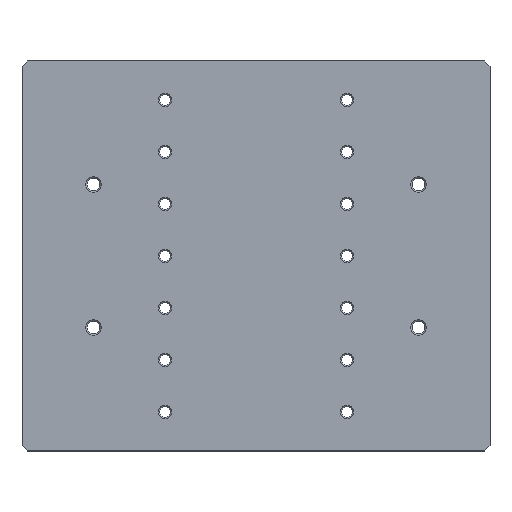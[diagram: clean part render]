
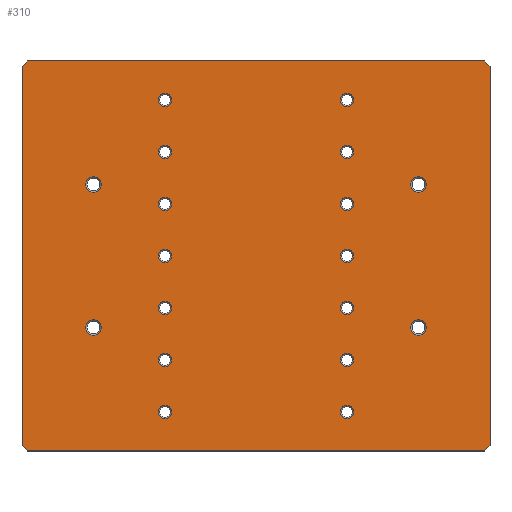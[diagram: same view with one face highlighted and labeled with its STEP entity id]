
A CAD part, top view. The second image highlights one B-rep face of the part: STEP entity #310.
In plain terms, the highlighted planar face has unit normal (0, 0, 1).
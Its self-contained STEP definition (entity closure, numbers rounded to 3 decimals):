
#88=FACE_BOUND('',#392,.T.);
#89=FACE_BOUND('',#393,.T.);
#90=FACE_BOUND('',#394,.T.);
#91=FACE_BOUND('',#395,.T.);
#92=FACE_BOUND('',#396,.T.);
#93=FACE_BOUND('',#397,.T.);
#94=FACE_BOUND('',#398,.T.);
#95=FACE_BOUND('',#399,.T.);
#96=FACE_BOUND('',#400,.T.);
#97=FACE_BOUND('',#401,.T.);
#98=FACE_BOUND('',#402,.T.);
#99=FACE_BOUND('',#403,.T.);
#100=FACE_BOUND('',#404,.T.);
#101=FACE_BOUND('',#405,.T.);
#102=FACE_BOUND('',#406,.T.);
#103=FACE_BOUND('',#407,.T.);
#104=FACE_BOUND('',#408,.T.);
#105=FACE_BOUND('',#409,.T.);
#106=FACE_BOUND('',#410,.T.);
#234=CIRCLE('',#971,2.5);
#235=CIRCLE('',#972,2.5);
#236=CIRCLE('',#973,2.5);
#237=CIRCLE('',#974,2.5);
#238=CIRCLE('',#975,2.5);
#239=CIRCLE('',#976,2.5);
#240=CIRCLE('',#977,2.5);
#241=CIRCLE('',#978,2.5);
#242=CIRCLE('',#979,2.5);
#243=CIRCLE('',#980,2.5);
#244=CIRCLE('',#981,2.5);
#245=CIRCLE('',#982,2.5);
#246=CIRCLE('',#983,2.5);
#247=CIRCLE('',#984,2.5);
#248=CIRCLE('',#985,3.);
#249=CIRCLE('',#986,3.);
#250=CIRCLE('',#987,3.);
#251=CIRCLE('',#988,3.);
#310=ADVANCED_FACE('',(#88,#89,#90,#91,#92,#93,#94,#95,#96,#97,#98,#99,
#100,#101,#102,#103,#104,#105,#106),#374,.T.);
#374=PLANE('',#989);
#392=EDGE_LOOP('',(#558));
#393=EDGE_LOOP('',(#559));
#394=EDGE_LOOP('',(#560));
#395=EDGE_LOOP('',(#561));
#396=EDGE_LOOP('',(#562));
#397=EDGE_LOOP('',(#563));
#398=EDGE_LOOP('',(#564));
#399=EDGE_LOOP('',(#565));
#400=EDGE_LOOP('',(#566));
#401=EDGE_LOOP('',(#567));
#402=EDGE_LOOP('',(#568));
#403=EDGE_LOOP('',(#569));
#404=EDGE_LOOP('',(#570));
#405=EDGE_LOOP('',(#571));
#406=EDGE_LOOP('',(#572));
#407=EDGE_LOOP('',(#573));
#408=EDGE_LOOP('',(#574));
#409=EDGE_LOOP('',(#575));
#410=EDGE_LOOP('',(#576,#577,#578,#579,#580,#581,#582,#583));
#558=ORIENTED_EDGE('',*,*,#838,.F.);
#559=ORIENTED_EDGE('',*,*,#839,.F.);
#560=ORIENTED_EDGE('',*,*,#840,.F.);
#561=ORIENTED_EDGE('',*,*,#841,.F.);
#562=ORIENTED_EDGE('',*,*,#842,.F.);
#563=ORIENTED_EDGE('',*,*,#843,.F.);
#564=ORIENTED_EDGE('',*,*,#844,.F.);
#565=ORIENTED_EDGE('',*,*,#845,.F.);
#566=ORIENTED_EDGE('',*,*,#846,.F.);
#567=ORIENTED_EDGE('',*,*,#847,.F.);
#568=ORIENTED_EDGE('',*,*,#848,.F.);
#569=ORIENTED_EDGE('',*,*,#849,.F.);
#570=ORIENTED_EDGE('',*,*,#850,.F.);
#571=ORIENTED_EDGE('',*,*,#851,.F.);
#572=ORIENTED_EDGE('',*,*,#852,.F.);
#573=ORIENTED_EDGE('',*,*,#853,.F.);
#574=ORIENTED_EDGE('',*,*,#854,.F.);
#575=ORIENTED_EDGE('',*,*,#855,.F.);
#576=ORIENTED_EDGE('',*,*,#832,.T.);
#577=ORIENTED_EDGE('',*,*,#856,.T.);
#578=ORIENTED_EDGE('',*,*,#834,.T.);
#579=ORIENTED_EDGE('',*,*,#857,.T.);
#580=ORIENTED_EDGE('',*,*,#824,.T.);
#581=ORIENTED_EDGE('',*,*,#858,.T.);
#582=ORIENTED_EDGE('',*,*,#828,.T.);
#583=ORIENTED_EDGE('',*,*,#859,.T.);
#736=VERTEX_POINT('',#1406);
#737=VERTEX_POINT('',#1408);
#740=VERTEX_POINT('',#1415);
#741=VERTEX_POINT('',#1417);
#744=VERTEX_POINT('',#1424);
#745=VERTEX_POINT('',#1426);
#746=VERTEX_POINT('',#1430);
#747=VERTEX_POINT('',#1431);
#750=VERTEX_POINT('',#1439);
#751=VERTEX_POINT('',#1441);
#752=VERTEX_POINT('',#1443);
#753=VERTEX_POINT('',#1445);
#754=VERTEX_POINT('',#1447);
#755=VERTEX_POINT('',#1449);
#756=VERTEX_POINT('',#1451);
#757=VERTEX_POINT('',#1453);
#758=VERTEX_POINT('',#1455);
#759=VERTEX_POINT('',#1457);
#760=VERTEX_POINT('',#1459);
#761=VERTEX_POINT('',#1461);
#762=VERTEX_POINT('',#1463);
#763=VERTEX_POINT('',#1465);
#764=VERTEX_POINT('',#1467);
#765=VERTEX_POINT('',#1469);
#766=VERTEX_POINT('',#1471);
#767=VERTEX_POINT('',#1473);
#824=EDGE_CURVE('',#737,#736,#920,.T.);
#828=EDGE_CURVE('',#741,#740,#924,.T.);
#832=EDGE_CURVE('',#745,#744,#928,.T.);
#834=EDGE_CURVE('',#746,#747,#930,.T.);
#838=EDGE_CURVE('',#750,#750,#234,.T.);
#839=EDGE_CURVE('',#751,#751,#235,.T.);
#840=EDGE_CURVE('',#752,#752,#236,.T.);
#841=EDGE_CURVE('',#753,#753,#237,.T.);
#842=EDGE_CURVE('',#754,#754,#238,.T.);
#843=EDGE_CURVE('',#755,#755,#239,.T.);
#844=EDGE_CURVE('',#756,#756,#240,.T.);
#845=EDGE_CURVE('',#757,#757,#241,.T.);
#846=EDGE_CURVE('',#758,#758,#242,.T.);
#847=EDGE_CURVE('',#759,#759,#243,.T.);
#848=EDGE_CURVE('',#760,#760,#244,.T.);
#849=EDGE_CURVE('',#761,#761,#245,.T.);
#850=EDGE_CURVE('',#762,#762,#246,.T.);
#851=EDGE_CURVE('',#763,#763,#247,.T.);
#852=EDGE_CURVE('',#764,#764,#248,.T.);
#853=EDGE_CURVE('',#765,#765,#249,.T.);
#854=EDGE_CURVE('',#766,#766,#250,.T.);
#855=EDGE_CURVE('',#767,#767,#251,.T.);
#856=EDGE_CURVE('',#744,#746,#934,.T.);
#857=EDGE_CURVE('',#747,#737,#935,.T.);
#858=EDGE_CURVE('',#736,#741,#936,.T.);
#859=EDGE_CURVE('',#740,#745,#937,.T.);
#920=LINE('',#1407,#944);
#924=LINE('',#1416,#948);
#928=LINE('',#1425,#952);
#930=LINE('',#1429,#954);
#934=LINE('',#1474,#958);
#935=LINE('',#1475,#959);
#936=LINE('',#1476,#960);
#937=LINE('',#1477,#961);
#944=VECTOR('',#1107,1.);
#948=VECTOR('',#1113,1.);
#952=VECTOR('',#1119,1.);
#954=VECTOR('',#1123,1.);
#958=VECTOR('',#1165,1.);
#959=VECTOR('',#1166,1.);
#960=VECTOR('',#1167,1.);
#961=VECTOR('',#1168,1.);
#971=AXIS2_PLACEMENT_3D('',#1438,#1129,#1130);
#972=AXIS2_PLACEMENT_3D('',#1440,#1131,#1132);
#973=AXIS2_PLACEMENT_3D('',#1442,#1133,#1134);
#974=AXIS2_PLACEMENT_3D('',#1444,#1135,#1136);
#975=AXIS2_PLACEMENT_3D('',#1446,#1137,#1138);
#976=AXIS2_PLACEMENT_3D('',#1448,#1139,#1140);
#977=AXIS2_PLACEMENT_3D('',#1450,#1141,#1142);
#978=AXIS2_PLACEMENT_3D('',#1452,#1143,#1144);
#979=AXIS2_PLACEMENT_3D('',#1454,#1145,#1146);
#980=AXIS2_PLACEMENT_3D('',#1456,#1147,#1148);
#981=AXIS2_PLACEMENT_3D('',#1458,#1149,#1150);
#982=AXIS2_PLACEMENT_3D('',#1460,#1151,#1152);
#983=AXIS2_PLACEMENT_3D('',#1462,#1153,#1154);
#984=AXIS2_PLACEMENT_3D('',#1464,#1155,#1156);
#985=AXIS2_PLACEMENT_3D('',#1466,#1157,#1158);
#986=AXIS2_PLACEMENT_3D('',#1468,#1159,#1160);
#987=AXIS2_PLACEMENT_3D('',#1470,#1161,#1162);
#988=AXIS2_PLACEMENT_3D('',#1472,#1163,#1164);
#989=AXIS2_PLACEMENT_3D('',#1478,#1169,#1170);
#1107=DIRECTION('',(0.,-1.,0.));
#1113=DIRECTION('',(1.,0.,0.));
#1119=DIRECTION('',(0.,1.,0.));
#1123=DIRECTION('',(-1.,0.,0.));
#1129=DIRECTION('',(0.,0.,1.));
#1130=DIRECTION('',(1.,0.,0.));
#1131=DIRECTION('',(0.,0.,1.));
#1132=DIRECTION('',(1.,0.,0.));
#1133=DIRECTION('',(0.,0.,1.));
#1134=DIRECTION('',(1.,0.,0.));
#1135=DIRECTION('',(0.,0.,1.));
#1136=DIRECTION('',(1.,0.,0.));
#1137=DIRECTION('',(0.,0.,1.));
#1138=DIRECTION('',(1.,0.,0.));
#1139=DIRECTION('',(0.,0.,1.));
#1140=DIRECTION('',(1.,0.,0.));
#1141=DIRECTION('',(0.,0.,1.));
#1142=DIRECTION('',(1.,0.,0.));
#1143=DIRECTION('',(0.,0.,1.));
#1144=DIRECTION('',(1.,0.,0.));
#1145=DIRECTION('',(0.,0.,1.));
#1146=DIRECTION('',(1.,0.,0.));
#1147=DIRECTION('',(0.,0.,1.));
#1148=DIRECTION('',(1.,0.,0.));
#1149=DIRECTION('',(0.,0.,1.));
#1150=DIRECTION('',(1.,0.,0.));
#1151=DIRECTION('',(0.,0.,1.));
#1152=DIRECTION('',(1.,0.,0.));
#1153=DIRECTION('',(0.,0.,1.));
#1154=DIRECTION('',(1.,0.,0.));
#1155=DIRECTION('',(0.,0.,1.));
#1156=DIRECTION('',(1.,0.,0.));
#1157=DIRECTION('',(0.,0.,1.));
#1158=DIRECTION('',(1.,0.,0.));
#1159=DIRECTION('',(0.,0.,1.));
#1160=DIRECTION('',(1.,0.,0.));
#1161=DIRECTION('',(0.,0.,1.));
#1162=DIRECTION('',(1.,0.,0.));
#1163=DIRECTION('',(0.,0.,1.));
#1164=DIRECTION('',(1.,0.,0.));
#1165=DIRECTION('',(-0.707,0.707,0.));
#1166=DIRECTION('',(-0.707,-0.707,0.));
#1167=DIRECTION('',(0.707,-0.707,0.));
#1168=DIRECTION('',(0.707,0.707,0.));
#1169=DIRECTION('',(0.,0.,1.));
#1170=DIRECTION('',(1.,0.,0.));
#1406=CARTESIAN_POINT('',(0.,2.,10.));
#1407=CARTESIAN_POINT('',(0.,150.,10.));
#1408=CARTESIAN_POINT('',(0.,148.,10.));
#1415=CARTESIAN_POINT('',(178.,0.,10.));
#1416=CARTESIAN_POINT('',(0.,0.,10.));
#1417=CARTESIAN_POINT('',(2.,0.,10.));
#1424=CARTESIAN_POINT('',(180.,148.,10.));
#1425=CARTESIAN_POINT('',(180.,0.,10.));
#1426=CARTESIAN_POINT('',(180.,2.,10.));
#1429=CARTESIAN_POINT('',(180.,150.,10.));
#1430=CARTESIAN_POINT('',(178.,150.,10.));
#1431=CARTESIAN_POINT('',(2.,150.,10.));
#1438=CARTESIAN_POINT('',(125.,15.,10.));
#1439=CARTESIAN_POINT('',(127.5,15.,10.));
#1440=CARTESIAN_POINT('',(125.,35.,10.));
#1441=CARTESIAN_POINT('',(127.5,35.,10.));
#1442=CARTESIAN_POINT('',(125.,55.,10.));
#1443=CARTESIAN_POINT('',(127.5,55.,10.));
#1444=CARTESIAN_POINT('',(125.,135.,10.));
#1445=CARTESIAN_POINT('',(127.5,135.,10.));
#1446=CARTESIAN_POINT('',(125.,115.,10.));
#1447=CARTESIAN_POINT('',(127.5,115.,10.));
#1448=CARTESIAN_POINT('',(125.,95.,10.));
#1449=CARTESIAN_POINT('',(127.5,95.,10.));
#1450=CARTESIAN_POINT('',(55.,15.,10.));
#1451=CARTESIAN_POINT('',(57.5,15.,10.));
#1452=CARTESIAN_POINT('',(55.,35.,10.));
#1453=CARTESIAN_POINT('',(57.5,35.,10.));
#1454=CARTESIAN_POINT('',(55.,55.,10.));
#1455=CARTESIAN_POINT('',(57.5,55.,10.));
#1456=CARTESIAN_POINT('',(55.,135.,10.));
#1457=CARTESIAN_POINT('',(57.5,135.,10.));
#1458=CARTESIAN_POINT('',(55.,115.,10.));
#1459=CARTESIAN_POINT('',(57.5,115.,10.));
#1460=CARTESIAN_POINT('',(55.,95.,10.));
#1461=CARTESIAN_POINT('',(57.5,95.,10.));
#1462=CARTESIAN_POINT('',(125.,75.,10.));
#1463=CARTESIAN_POINT('',(127.5,75.,10.));
#1464=CARTESIAN_POINT('',(55.,75.,10.));
#1465=CARTESIAN_POINT('',(57.5,75.,10.));
#1466=CARTESIAN_POINT('',(152.5,47.5,10.));
#1467=CARTESIAN_POINT('',(155.5,47.5,10.));
#1468=CARTESIAN_POINT('',(152.5,102.5,10.));
#1469=CARTESIAN_POINT('',(155.5,102.5,10.));
#1470=CARTESIAN_POINT('',(27.5,47.5,10.));
#1471=CARTESIAN_POINT('',(30.5,47.5,10.));
#1472=CARTESIAN_POINT('',(27.5,102.5,10.));
#1473=CARTESIAN_POINT('',(30.5,102.5,10.));
#1474=CARTESIAN_POINT('',(164.,164.,10.));
#1475=CARTESIAN_POINT('',(-74.,74.,10.));
#1476=CARTESIAN_POINT('',(1.,1.,10.));
#1477=CARTESIAN_POINT('',(89.,-89.,10.));
#1478=CARTESIAN_POINT('',(0.,0.,10.));
